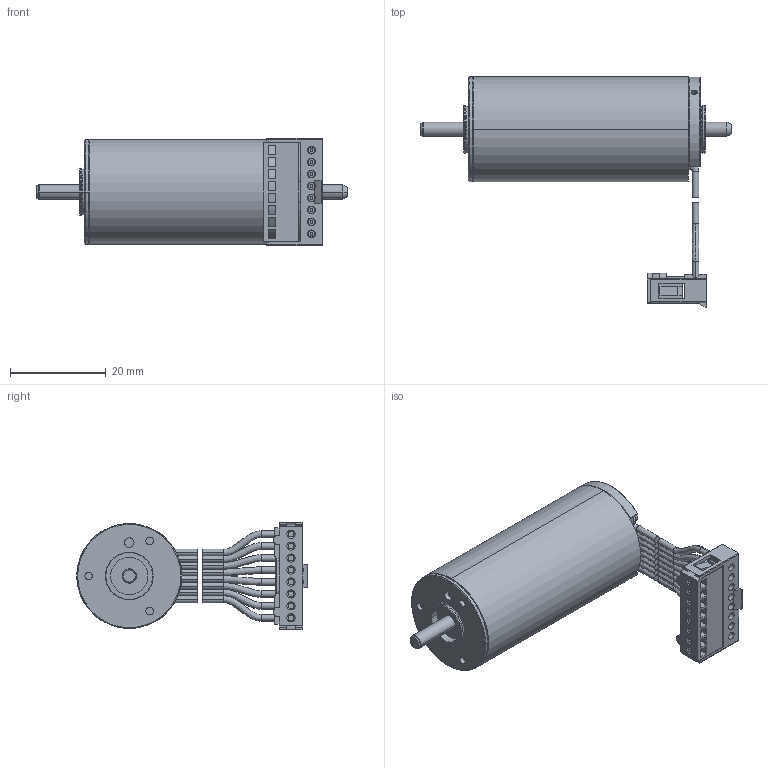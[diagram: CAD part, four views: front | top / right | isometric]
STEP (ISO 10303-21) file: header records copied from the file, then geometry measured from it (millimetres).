
FILE_DESCRIPTION((''),'2;1');
FILE_NAME('283856_EC-MAX22_25W','2016-10-14T',('mmagpetk'),(''),'CREO PARAMETRIC BY PTC INC, 2016050','CREO PARAMETRIC BY PTC INC, 2016050','');
FILE_SCHEMA(('CONFIG_CONTROL_DESIGN'));
Length unit declared in the file: millimetre
Products named in the file (1): 283856_EC-MAX22_25W
Bounding box: 65 x 48.25 x 22.6 mm (x, y, z)
Volume: 19788.7 mm3; surface area: 7482.8 mm2
Topology: 8 solids, 8 shells, 596 faces, 1667 edges, 1088 vertices
Faces by surface type: plane 317, cylinder 205, cone 36, bspline 32, torus 6
Entity records: 29789 total; most frequent: CARTESIAN_POINT 5757, ORIENTED_EDGE 3330, DIRECTION 3143, PRESENTATION_STYLE_ASSIGNMENT 2137, STYLED_ITEM 1673, CURVE_STYLE 1665, EDGE_CURVE 1665, VERTEX_POINT 1088
